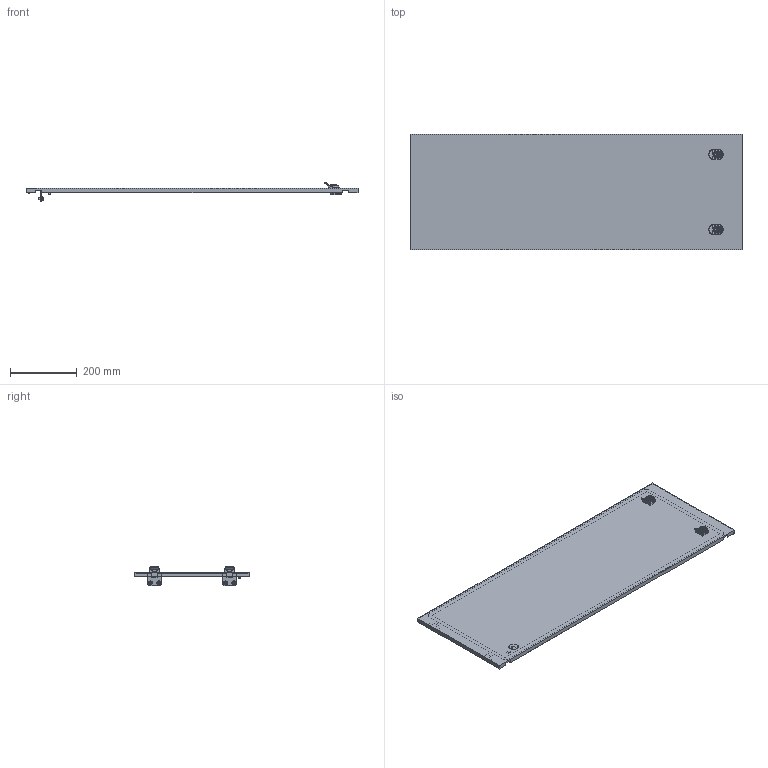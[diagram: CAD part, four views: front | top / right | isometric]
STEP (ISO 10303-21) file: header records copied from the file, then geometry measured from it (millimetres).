
FILE_DESCRIPTION (( 'STEP AP214' ), '1' );
FILE_NAME ('FO-00-ESD-035-100 Äâåðü ñåêöèîííàÿ âíåøíÿÿ 350õ1000 ìì.STEP', '2025-08-20T06:05:21', ( '' ), ( '' ), 'SwSTEP 2.0', 'SolidWorks 2023', '' );
FILE_SCHEMA (( 'AUTOMOTIVE_DESIGN' ));
Length unit declared in the file: millimetre
Products named in the file (4): Петля_2.STEP; Дверь секционная внешняя 350х1000 мм.STEP; FO-00-ESD-035-100 Дверь секционная внешняя 350х1000 мм.STEP; FO-00-ESD-035-100 Дверь секционная внешняя 350х1000 мм
Assembly tree (4 placements, depth 3):
  FO-00-ESD-035-100 Дверь секционная внешняя 350х1000 мм
    FO-00-ESD-035-100 Дверь секционная внешняя 350х1000 мм.STEP
      Дверь секционная внешняя 350х1000 мм.STEP
      Петля_2.STEP  x2
Bounding box: 995 x 346 x 57.25 mm (x, y, z)
Volume: 884452.4 mm3; surface area: 790812 mm2
Topology: 7 solids, 16 shells, 703 faces, 1803 edges, 1166 vertices
Faces by surface type: plane 343, cylinder 268, torus 34, bspline 30, cone 28
Entity records: 20644 total; most frequent: CARTESIAN_POINT 5770, ORIENTED_EDGE 3096, DIRECTION 3062, EDGE_CURVE 1548, AXIS2_PLACEMENT_3D 1050, VERTEX_POINT 1004, VECTOR 962, LINE 962
